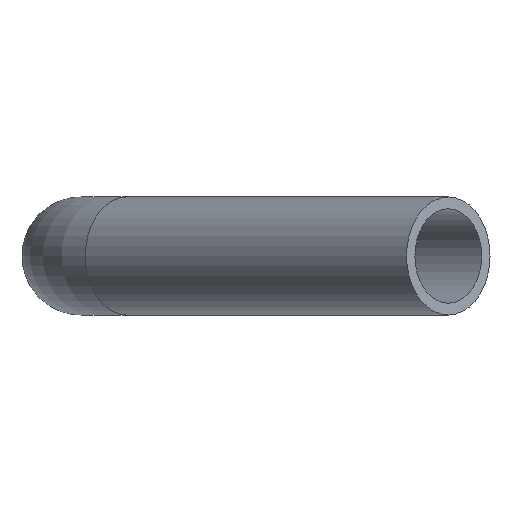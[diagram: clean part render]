
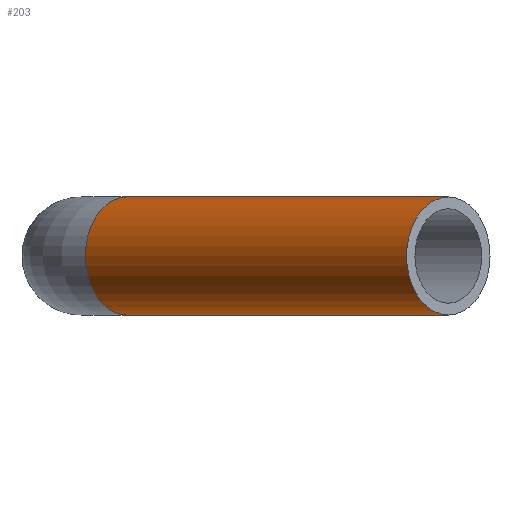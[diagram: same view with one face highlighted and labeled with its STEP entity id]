
A CAD part, left-side view. The second image highlights one B-rep face of the part: STEP entity #203.
In plain terms, the highlighted cylindrical face has radius 7.5 mm (diameter 15 mm), a full revolution.
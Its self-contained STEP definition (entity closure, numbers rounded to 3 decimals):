
#172=CARTESIAN_POINT('',(-19.445,19.445,0.));
#173=VERTEX_POINT('',#172);
#174=CARTESIAN_POINT('',(-14.142,14.142,0.0));
#175=DIRECTION('',(-0.707,-0.707,0.0));
#176=DIRECTION('',(0.707,-0.707,0.0));
#177=AXIS2_PLACEMENT_3D('',#174,#175,#176);
#178=CIRCLE('',#177,7.5);
#179=EDGE_CURVE('',#173,#173,#178,.T.);
#184=CARTESIAN_POINT('',(-54.953,-26.669,0.0));
#185=DIRECTION('',(0.707,0.707,0.0));
#186=DIRECTION('',(0.707,-0.707,0.0));
#187=AXIS2_PLACEMENT_3D('',#184,#185,#186);
#188=CYLINDRICAL_SURFACE('',#187,7.5);
#189=ORIENTED_EDGE('',*,*,#179,.T.);
#190=EDGE_LOOP('',(#189));
#191=FACE_OUTER_BOUND('',#190,.T.);
#192=CARTESIAN_POINT('',(-60.257,-21.366,0.));
#193=VERTEX_POINT('',#192);
#194=CARTESIAN_POINT('',(-54.953,-26.669,0.0));
#195=DIRECTION('',(-0.707,-0.707,0.0));
#196=DIRECTION('',(0.707,-0.707,0.0));
#197=AXIS2_PLACEMENT_3D('',#194,#195,#196);
#198=CIRCLE('',#197,7.5);
#199=EDGE_CURVE('',#193,#193,#198,.T.);
#200=ORIENTED_EDGE('',*,*,#199,.F.);
#201=EDGE_LOOP('',(#200));
#202=FACE_BOUND('',#201,.T.);
#203=ADVANCED_FACE('',(#191,#202),#188,.T.);
